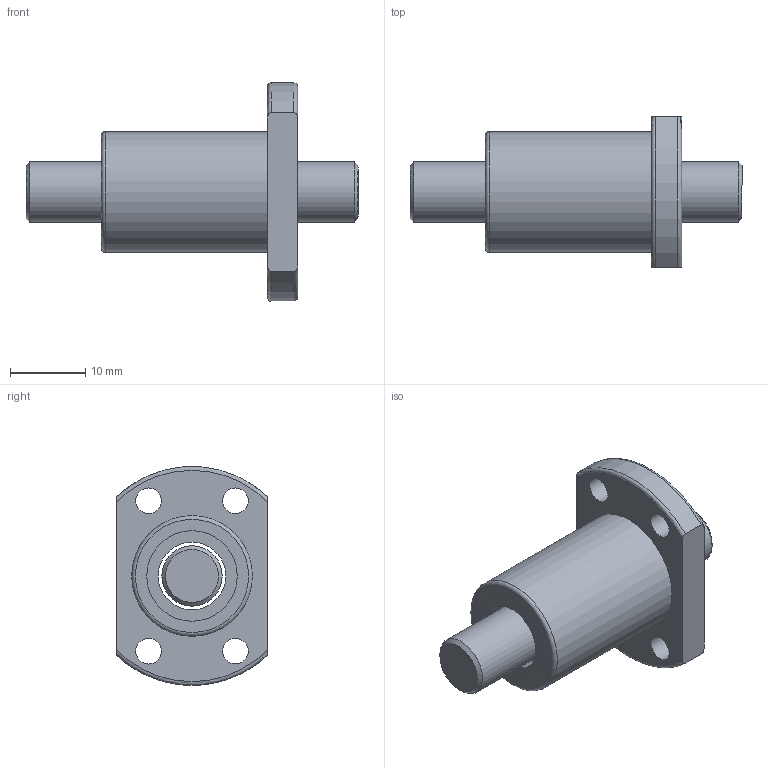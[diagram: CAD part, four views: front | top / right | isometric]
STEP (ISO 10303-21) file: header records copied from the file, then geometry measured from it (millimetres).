
FILE_DESCRIPTION(/* description */ (''),/* implementation_level */ '2;1');
FILE_NAME(/* name */ 'SFK082.5',/* time_stamp */ '2007-10-26T10:40:07+08:00',/* author */ (''),/* organization */ (''),/* preprocessor_version */ 'ST-DEVELOPER v9',/* originating_system */ 'EDS PLM SOLUTIONS - UNIGRAPHICS NX 1.0',/* authorisation */ '');
FILE_SCHEMA (('CONFIG_CONTROL_DESIGN'));
Length unit declared in the file: millimetre
Products named in the file (1): FANNDA0400ca
Bounding box: 44 x 20 x 28.97 mm (x, y, z)
Volume: 6942.3 mm3; surface area: 5027.5 mm2
Topology: 4 solids, 4 shells, 35 faces, 73 edges, 49 vertices
Faces by surface type: cylinder 15, plane 13, torus 5, cone 2
Full cylindrical faces by diameter (mm): 3.4 x4, 8 x1, 9 x3, 12 x4, 16 x1
Entity records: 1078 total; most frequent: CARTESIAN_POINT 284, DIRECTION 154, ORIENTED_EDGE 106, AXIS2_PLACEMENT_3D 73, EDGE_LOOP 68, EDGE_CURVE 53, FACE_BOUND 47, VERTEX_POINT 45
